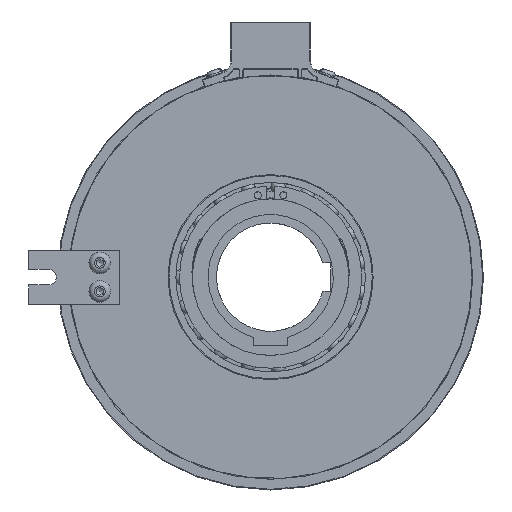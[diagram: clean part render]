
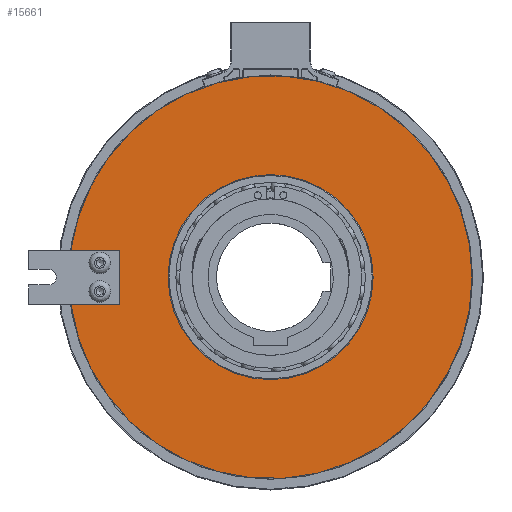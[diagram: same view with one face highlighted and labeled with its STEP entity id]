
A CAD part, left-side view. The second image highlights one B-rep face of the part: STEP entity #15661.
In plain terms, the highlighted planar face has unit normal (-1, 0, 0).
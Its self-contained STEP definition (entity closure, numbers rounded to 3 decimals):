
#1017=FACE_BOUND('',#3872,.T.);
#1315=LINE('',#24106,#2031);
#1316=LINE('',#24112,#2032);
#1317=LINE('',#24113,#2033);
#2031=VECTOR('',#19279,10.);
#2032=VECTOR('',#19284,10.);
#2033=VECTOR('',#19285,10.);
#2650=PLANE('',#16726);
#3019=FACE_OUTER_BOUND('',#3871,.T.);
#3871=EDGE_LOOP('',(#10799,#10800,#10801,#10802,#10803));
#3872=EDGE_LOOP('',(#10804,#10805));
#4982=CIRCLE('',#16727,70.75);
#4983=CIRCLE('',#16728,70.75);
#4984=CIRCLE('',#16729,36.);
#4985=CIRCLE('',#16730,36.);
#6281=VERTEX_POINT('',#24104);
#6282=VERTEX_POINT('',#24105);
#6283=VERTEX_POINT('',#24107);
#6284=VERTEX_POINT('',#24109);
#6285=VERTEX_POINT('',#24111);
#6286=VERTEX_POINT('',#24114);
#6287=VERTEX_POINT('',#24115);
#8057=EDGE_CURVE('',#6281,#6282,#1315,.T.);
#8058=EDGE_CURVE('',#6282,#6283,#4982,.T.);
#8059=EDGE_CURVE('',#6283,#6284,#4983,.T.);
#8060=EDGE_CURVE('',#6284,#6285,#1316,.T.);
#8061=EDGE_CURVE('',#6285,#6281,#1317,.T.);
#8062=EDGE_CURVE('',#6286,#6287,#4984,.T.);
#8063=EDGE_CURVE('',#6287,#6286,#4985,.T.);
#10799=ORIENTED_EDGE('',*,*,#8057,.T.);
#10800=ORIENTED_EDGE('',*,*,#8058,.T.);
#10801=ORIENTED_EDGE('',*,*,#8059,.T.);
#10802=ORIENTED_EDGE('',*,*,#8060,.T.);
#10803=ORIENTED_EDGE('',*,*,#8061,.T.);
#10804=ORIENTED_EDGE('',*,*,#8062,.F.);
#10805=ORIENTED_EDGE('',*,*,#8063,.F.);
#15661=ADVANCED_FACE('',(#3019,#1017),#2650,.T.);
#16726=AXIS2_PLACEMENT_3D('',#24103,#19277,#19278);
#16727=AXIS2_PLACEMENT_3D('',#24108,#19280,#19281);
#16728=AXIS2_PLACEMENT_3D('',#24110,#19282,#19283);
#16729=AXIS2_PLACEMENT_3D('',#24116,#19286,#19287);
#16730=AXIS2_PLACEMENT_3D('',#24117,#19288,#19289);
#19277=DIRECTION('center_axis',(-1.,0.,0.));
#19278=DIRECTION('ref_axis',(0.,0.,
1.));
#19279=DIRECTION('',(0.,1.,0.));
#19280=DIRECTION('center_axis',(-1.,0.,0.));
#19281=DIRECTION('ref_axis',(0.,1.,0.));
#19282=DIRECTION('center_axis',(-1.,0.,0.));
#19283=DIRECTION('ref_axis',(0.,1.,0.));
#19284=DIRECTION('',(0.,-1.,0.));
#19285=DIRECTION('',(0.,0.,-1.));
#19286=DIRECTION('center_axis',(-1.,0.,0.));
#19287=DIRECTION('ref_axis',(0.,1.,0.));
#19288=DIRECTION('center_axis',(-1.,0.,0.));
#19289=DIRECTION('ref_axis',(0.,1.,0.));
#24103=CARTESIAN_POINT('Origin',(-42.3,53.375,0.));
#24104=CARTESIAN_POINT('',(-42.3,53.,-9.5));
#24105=CARTESIAN_POINT('',(-42.3,70.109,-9.5));
#24106=CARTESIAN_POINT('',(-42.3,53.188,-9.5));
#24107=CARTESIAN_POINT('',(-42.3,-70.75,0.));
#24108=CARTESIAN_POINT('Origin',(-42.3,0.,0.));
#24109=CARTESIAN_POINT('',(-42.3,70.109,9.5));
#24110=CARTESIAN_POINT('Origin',(-42.3,0.,0.));
#24111=CARTESIAN_POINT('',(-42.3,53.,9.5));
#24112=CARTESIAN_POINT('',(-42.3,69.188,9.5));
#24113=CARTESIAN_POINT('',(-42.3,53.,4.75));
#24114=CARTESIAN_POINT('',(-42.3,36.,0.));
#24115=CARTESIAN_POINT('',(-42.3,-36.,0.));
#24116=CARTESIAN_POINT('Origin',(-42.3,0.,0.));
#24117=CARTESIAN_POINT('Origin',(-42.3,0.,0.));
